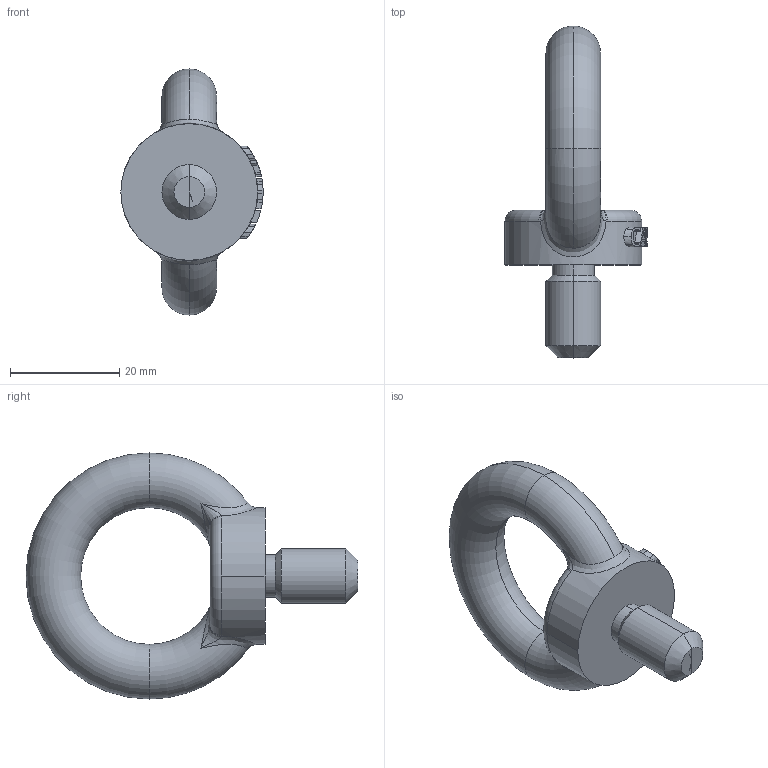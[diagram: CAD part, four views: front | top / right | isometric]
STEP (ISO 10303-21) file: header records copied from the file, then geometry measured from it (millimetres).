
FILE_DESCRIPTION(('STEP AP214'),'1');
FILE_NAME('c80310.stp','2017-03-22T15:04:57',('TraceParts'),('TraceParts S.A.'),'Spatial InterOp 3D',' ',' ');
FILE_SCHEMA(('automotive_design'));
Length unit declared in the file: millimetre
Products named in the file (1): c80310
Bounding box: 26 x 60.7 x 45 mm (x, y, z)
Volume: 12797.5 mm3; surface area: 4867.6 mm2
Topology: 1 solids, 1 shells, 132 faces, 359 edges, 229 vertices
Faces by surface type: plane 52, bspline 51, cylinder 15, torus 8, cone 6
Entity records: 6631 total; most frequent: CARTESIAN_POINT 2500, ORIENTED_EDGE 706, DIRECTION 529, EDGE_CURVE 353, VERTEX_POINT 229, AXIS2_PLACEMENT_3D 196, EDGE_LOOP 140, LINE 137
